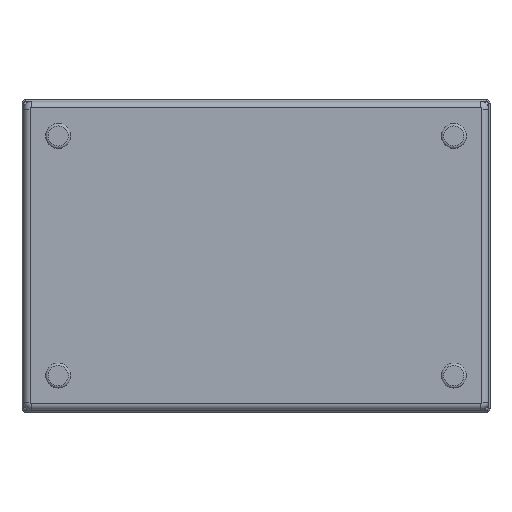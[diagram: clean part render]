
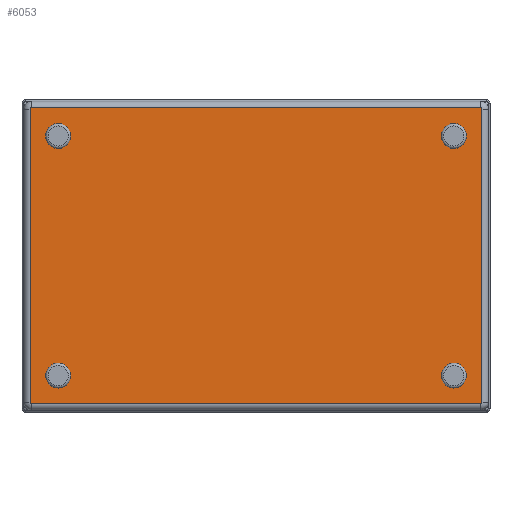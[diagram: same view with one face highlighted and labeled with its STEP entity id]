
A CAD part, top view. The second image highlights one B-rep face of the part: STEP entity #6053.
In plain terms, the highlighted planar face has unit normal (0, 0, 1).
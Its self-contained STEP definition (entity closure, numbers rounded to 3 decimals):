
#109 = CARTESIAN_POINT ( 'NONE',  ( 144., -94.8, 0. ) ) ;
#207 = CARTESIAN_POINT ( 'NONE',  ( -144., 94.8, 0. ) ) ;
#313 = DIRECTION ( 'NONE',  ( -1., 0., 0. ) ) ;
#486 = ORIENTED_EDGE ( 'NONE', *, *, #2743, .T. ) ;
#492 = VERTEX_POINT ( 'NONE', #5353 ) ;
#512 = AXIS2_PLACEMENT_3D ( 'NONE', #1905, #6566, #4229 ) ;
#569 = EDGE_LOOP ( 'NONE', ( #486 ) ) ;
#580 = ORIENTED_EDGE ( 'NONE', *, *, #1285, .T. ) ;
#716 = VERTEX_POINT ( 'NONE', #1690 ) ;
#769 = CARTESIAN_POINT ( 'NONE',  ( -126.8, 76.8, 0. ) ) ;
#780 = AXIS2_PLACEMENT_3D ( 'NONE', #2760, #5609, #1056 ) ;
#914 = LINE ( 'NONE', #5972, #4594 ) ;
#1009 = EDGE_CURVE ( 'NONE', #492, #5514, #5974, .T. ) ;
#1056 = DIRECTION ( 'NONE',  ( -1., 0., 0. ) ) ;
#1285 = EDGE_CURVE ( 'NONE', #5514, #2479, #7069, .T. ) ;
#1311 = AXIS2_PLACEMENT_3D ( 'NONE', #5093, #3472, #4068 ) ;
#1439 = CARTESIAN_POINT ( 'NONE',  ( -144.8, -94., 0. ) ) ;
#1448 = PLANE ( 'NONE',  #5243 ) ;
#1502 = CARTESIAN_POINT ( 'NONE',  ( -144.8, -94., 0. ) ) ;
#1690 = CARTESIAN_POINT ( 'NONE',  ( 144.8, 94., 0. ) ) ;
#1706 = ORIENTED_EDGE ( 'NONE', *, *, #2921, .T. ) ;
#1817 = EDGE_LOOP ( 'NONE', ( #3570 ) ) ;
#1828 = CARTESIAN_POINT ( 'NONE',  ( 144., 94., 0. ) ) ;
#1887 = CARTESIAN_POINT ( 'NONE',  ( 144.8, -94., 0. ) ) ;
#1905 = CARTESIAN_POINT ( 'NONE',  ( -144., 94., 0. ) ) ;
#1928 = VECTOR ( 'NONE', #2484, 1000. ) ;
#2005 = FACE_BOUND ( 'NONE', #5720, .T. ) ;
#2026 = CARTESIAN_POINT ( 'NONE',  ( 126.8, -76.8, 0. ) ) ;
#2094 = DIRECTION ( 'NONE',  ( 0., -1., 0. ) ) ;
#2170 = CARTESIAN_POINT ( 'NONE',  ( 126.8, 76.8, 0. ) ) ;
#2206 = CIRCLE ( 'NONE', #6478, 8. ) ;
#2213 = ORIENTED_EDGE ( 'NONE', *, *, #2831, .T. ) ;
#2244 = EDGE_LOOP ( 'NONE', ( #6962, #2213, #4430, #5887, #2779, #580, #6298, #6583 ) ) ;
#2381 = FACE_BOUND ( 'NONE', #4176, .T. ) ;
#2479 = VERTEX_POINT ( 'NONE', #1439 ) ;
#2484 = DIRECTION ( 'NONE',  ( -1., 0., 0. ) ) ;
#2525 = VERTEX_POINT ( 'NONE', #6057 ) ;
#2645 = ORIENTED_EDGE ( 'NONE', *, *, #2880, .T. ) ;
#2721 = VERTEX_POINT ( 'NONE', #7149 ) ;
#2743 = EDGE_CURVE ( 'NONE', #2721, #2721, #2206, .T. ) ;
#2760 = CARTESIAN_POINT ( 'NONE',  ( -144., -94., 0. ) ) ;
#2779 = ORIENTED_EDGE ( 'NONE', *, *, #1009, .T. ) ;
#2798 = CARTESIAN_POINT ( 'NONE',  ( -134.8, -76.8, 0. ) ) ;
#2831 = EDGE_CURVE ( 'NONE', #4626, #716, #914, .T. ) ;
#2879 = EDGE_CURVE ( 'NONE', #2479, #7169, #3384, .T. ) ;
#2880 = EDGE_CURVE ( 'NONE', #6557, #6557, #3135, .T. ) ;
#2908 = CIRCLE ( 'NONE', #7068, 8. ) ;
#2921 = EDGE_CURVE ( 'NONE', #3687, #3687, #2908, .T. ) ;
#2951 = CARTESIAN_POINT ( 'NONE',  ( 144., 94.8, 0. ) ) ;
#3135 = CIRCLE ( 'NONE', #6944, 8. ) ;
#3154 = CARTESIAN_POINT ( 'NONE',  ( 144., 94., 0. ) ) ;
#3212 = DIRECTION ( 'NONE',  ( -1., 0., 0. ) ) ;
#3277 = EDGE_CURVE ( 'NONE', #716, #4038, #3508, .T. ) ;
#3384 = CIRCLE ( 'NONE', #780, 0.8 ) ;
#3472 = DIRECTION ( 'NONE',  ( 0., 0., -1. ) ) ;
#3508 = CIRCLE ( 'NONE', #5307, 0.8 ) ;
#3570 = ORIENTED_EDGE ( 'NONE', *, *, #5762, .T. ) ;
#3580 = DIRECTION ( 'NONE',  ( 1., 0., 0. ) ) ;
#3664 = DIRECTION ( 'NONE',  ( 0., 0., -1. ) ) ;
#3687 = VERTEX_POINT ( 'NONE', #4937 ) ;
#3875 = DIRECTION ( 'NONE',  ( -1., 0., 0. ) ) ;
#3884 = DIRECTION ( 'NONE',  ( 0., 1., 0. ) ) ;
#4038 = VERTEX_POINT ( 'NONE', #2951 ) ;
#4068 = DIRECTION ( 'NONE',  ( -1., 0., 0. ) ) ;
#4154 = CARTESIAN_POINT ( 'NONE',  ( -144.8, 94., 0. ) ) ;
#4176 = EDGE_LOOP ( 'NONE', ( #1706 ) ) ;
#4229 = DIRECTION ( 'NONE',  ( -1., 0., 0. ) ) ;
#4307 = DIRECTION ( 'NONE',  ( 0., 0., 1. ) ) ;
#4411 = CIRCLE ( 'NONE', #4529, 0.8 ) ;
#4430 = ORIENTED_EDGE ( 'NONE', *, *, #3277, .T. ) ;
#4529 = AXIS2_PLACEMENT_3D ( 'NONE', #6686, #4307, #3212 ) ;
#4594 = VECTOR ( 'NONE', #3884, 1000. ) ;
#4626 = VERTEX_POINT ( 'NONE', #1887 ) ;
#4650 = EDGE_CURVE ( 'NONE', #4038, #492, #6367, .T. ) ;
#4669 = FACE_OUTER_BOUND ( 'NONE', #2244, .T. ) ;
#4799 = VECTOR ( 'NONE', #2094, 1000. ) ;
#4850 = FACE_BOUND ( 'NONE', #1817, .T. ) ;
#4937 = CARTESIAN_POINT ( 'NONE',  ( 118.8, -76.8, 0. ) ) ;
#5051 = DIRECTION ( 'NONE',  ( 0., 0., -1. ) ) ;
#5093 = CARTESIAN_POINT ( 'NONE',  ( -126.8, -76.8, 0. ) ) ;
#5243 = AXIS2_PLACEMENT_3D ( 'NONE', #1828, #5443, #5816 ) ;
#5277 = DIRECTION ( 'NONE',  ( -1., 0., 0. ) ) ;
#5307 = AXIS2_PLACEMENT_3D ( 'NONE', #3154, #6035, #3875 ) ;
#5353 = CARTESIAN_POINT ( 'NONE',  ( -144., 94.8, 0. ) ) ;
#5443 = DIRECTION ( 'NONE',  ( 0., 0., -1. ) ) ;
#5514 = VERTEX_POINT ( 'NONE', #4154 ) ;
#5568 = EDGE_CURVE ( 'NONE', #2525, #4626, #4411, .T. ) ;
#5609 = DIRECTION ( 'NONE',  ( 0., 0., 1. ) ) ;
#5612 = CIRCLE ( 'NONE', #1311, 8. ) ;
#5715 = CARTESIAN_POINT ( 'NONE',  ( -144., -94.8, 0. ) ) ;
#5720 = EDGE_LOOP ( 'NONE', ( #2645 ) ) ;
#5762 = EDGE_CURVE ( 'NONE', #6219, #6219, #5612, .T. ) ;
#5816 = DIRECTION ( 'NONE',  ( -1., 0., 0. ) ) ;
#5857 = LINE ( 'NONE', #109, #6617 ) ;
#5887 = ORIENTED_EDGE ( 'NONE', *, *, #4650, .T. ) ;
#5904 = DIRECTION ( 'NONE',  ( 0., 0., -1. ) ) ;
#5935 = DIRECTION ( 'NONE',  ( -1., 0., 0. ) ) ;
#5972 = CARTESIAN_POINT ( 'NONE',  ( 144.8, 94., 0. ) ) ;
#5974 = CIRCLE ( 'NONE', #512, 0.8 ) ;
#6035 = DIRECTION ( 'NONE',  ( 0., 0., 1. ) ) ;
#6053 = ADVANCED_FACE ( 'NONE', ( #4850, #2381, #2005, #6376, #4669 ), #1448, .F. ) ;
#6057 = CARTESIAN_POINT ( 'NONE',  ( 144., -94.8, 0. ) ) ;
#6080 = CARTESIAN_POINT ( 'NONE',  ( 118.8, 76.8, 0. ) ) ;
#6219 = VERTEX_POINT ( 'NONE', #2798 ) ;
#6298 = ORIENTED_EDGE ( 'NONE', *, *, #2879, .T. ) ;
#6367 = LINE ( 'NONE', #207, #1928 ) ;
#6376 = FACE_BOUND ( 'NONE', #569, .T. ) ;
#6478 = AXIS2_PLACEMENT_3D ( 'NONE', #769, #5904, #5277 ) ;
#6557 = VERTEX_POINT ( 'NONE', #6080 ) ;
#6566 = DIRECTION ( 'NONE',  ( 0., 0., 1. ) ) ;
#6583 = ORIENTED_EDGE ( 'NONE', *, *, #7332, .T. ) ;
#6617 = VECTOR ( 'NONE', #3580, 1000. ) ;
#6686 = CARTESIAN_POINT ( 'NONE',  ( 144., -94., 0. ) ) ;
#6944 = AXIS2_PLACEMENT_3D ( 'NONE', #2170, #5051, #313 ) ;
#6962 = ORIENTED_EDGE ( 'NONE', *, *, #5568, .T. ) ;
#7068 = AXIS2_PLACEMENT_3D ( 'NONE', #2026, #3664, #5935 ) ;
#7069 = LINE ( 'NONE', #1502, #4799 ) ;
#7149 = CARTESIAN_POINT ( 'NONE',  ( -134.8, 76.8, 0. ) ) ;
#7169 = VERTEX_POINT ( 'NONE', #5715 ) ;
#7332 = EDGE_CURVE ( 'NONE', #7169, #2525, #5857, .T. ) ;
